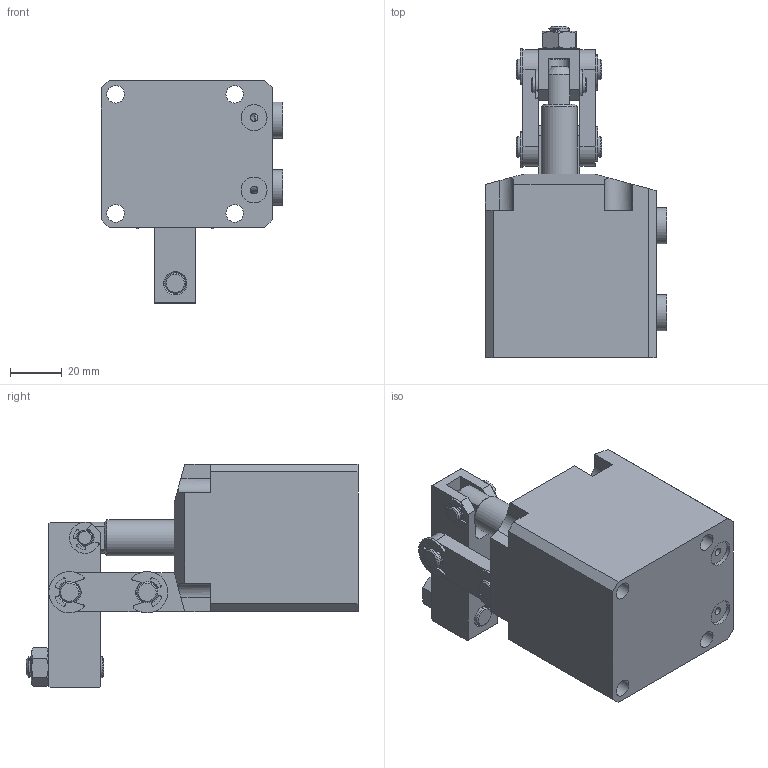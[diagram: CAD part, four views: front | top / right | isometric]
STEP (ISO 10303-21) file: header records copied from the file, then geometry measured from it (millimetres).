
FILE_DESCRIPTION(/* description */ ('STEP AP214'),/* implementation_level */ '2;1');
FILE_NAME(/* name */ 'D:\Vault_2016\Projekty\Clamptek\Hydraulic\CBLU\CBLU-35\STEP\CBLU-35GR.stp',/* time_stamp */ '2021-05-06T12:29:43+02:00',/* author */ ('user'),/* organization */ (''),/* preprocessor_version */ 'ST-DEVELOPER v18.1',/* originating_system */ 'Autodesk Inventor 2021',/* authorisation */ '');
FILE_SCHEMA (('AUTOMOTIVE_DESIGN { 1 0 10303 214 3 1 1 }'));
Length unit declared in the file: millimetre
Products named in the file (13): CBLU-35GR; ±¾ÌåCR_3_1; Áã¼þ2_1; »îÈû¸Ë_8_1; Á¬¸Ë; 35Ñ¹±Û; ¶ÌÏúÖá; ³¤ÏúÖá; e rings gb_GB_CONNECTING_PIECE_RINGS_HR 6; e rings gb_GB_CONNECTING_PIECE_RINGS_HR 8; hex nuts, style 1-grades ab gb_GB_FASTENER_NUT_SNAB1 M8-N; ÂÝË¿2; Áã¼þ2_1_2
Assembly tree (18 placements, depth 2):
  CBLU-35GR
    ±¾ÌåCR_3_1
    Áã¼þ2_1
    »îÈû¸Ë_8_1
    Á¬¸Ë  x2
    35Ñ¹±Û
    ¶ÌÏúÖá
    ³¤ÏúÖá  x2
    e rings gb_GB_CONNECTING_PIECE_RINGS_HR 6  x2
    e rings gb_GB_CONNECTING_PIECE_RINGS_HR 8  x4
    hex nuts, style 1-grades ab gb_GB_FASTENER_NUT_SNAB1 M8-N
    ÂÝË¿2
    Áã¼þ2_1_2
Bounding box: 70 x 128.3 x 86.5 mm (x, y, z)
Volume: 257510 mm3; surface area: 61183.5 mm2
Topology: 18 solids, 18 shells, 361 faces, 892 edges, 588 vertices
Faces by surface type: plane 168, cylinder 147, cone 42, bspline 4
Full cylindrical faces by diameter (mm): 2.5 x2, 3 x1, 5 x2, 6 x6, 6.647 x1, 6.8 x4, 7 x4, 8 x33, 9 x2, 10 x2, 14 x4, 35 x2
Entity records: 11015 total; most frequent: CARTESIAN_POINT 4235, DIRECTION 1338, ORIENTED_EDGE 1256, EDGE_CURVE 628, AXIS2_PLACEMENT_3D 494, VERTEX_POINT 413, LINE 350, VECTOR 350
